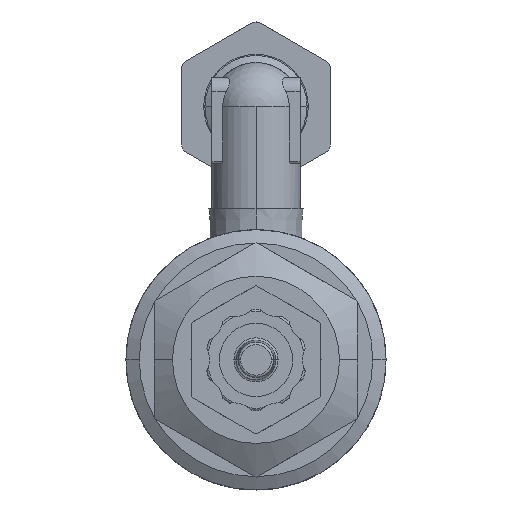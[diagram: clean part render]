
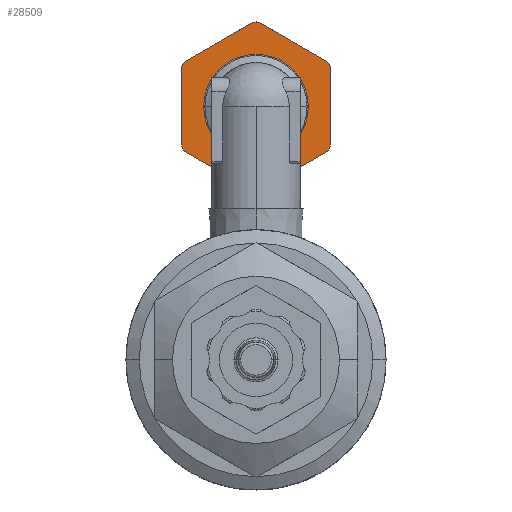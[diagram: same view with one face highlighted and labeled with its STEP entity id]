
A CAD part, front view. The second image highlights one B-rep face of the part: STEP entity #28509.
In plain terms, the highlighted planar face has unit normal (0, -1, 0).
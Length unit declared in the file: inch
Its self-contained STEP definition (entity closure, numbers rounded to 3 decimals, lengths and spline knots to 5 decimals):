
#217 = ORIENTED_EDGE ( 'NONE', *, *, #25436, .F. ) ;
#327 = DIRECTION ( 'NONE',  ( 1., 0., 0. ) ) ;
#838 = LINE ( 'NONE', #46725, #23343 ) ;
#1930 = AXIS2_PLACEMENT_3D ( 'NONE', #9004, #43672, #25314 ) ;
#1933 = VECTOR ( 'NONE', #11878, 39.37008 ) ;
#2358 = CARTESIAN_POINT ( 'NONE',  ( 0.32, -1.621, 0.90503 ) ) ;
#2856 = DIRECTION ( 'NONE',  ( 0., -1., 0. ) ) ;
#3249 = VERTEX_POINT ( 'NONE', #9545 ) ;
#3441 = ORIENTED_EDGE ( 'NONE', *, *, #40270, .T. ) ;
#3826 = CARTESIAN_POINT ( 'NONE',  ( 0.285, -1.621, 1.25432 ) ) ;
#3926 = DIRECTION ( 'NONE',  ( 1., 0., 0. ) ) ;
#4045 = DIRECTION ( 'NONE',  ( 1., 0., 0. ) ) ;
#4049 = DIRECTION ( 'NONE',  ( 0., -1., 0. ) ) ;
#4776 = CIRCLE ( 'NONE', #48059, 0.035 ) ;
#5058 = VECTOR ( 'NONE', #47959, 39.37008 ) ;
#5485 = EDGE_CURVE ( 'NONE', #17303, #41167, #7915, .T. ) ;
#5930 = EDGE_CURVE ( 'NONE', #46315, #12944, #4776, .T. ) ;
#6134 = ORIENTED_EDGE ( 'NONE', *, *, #16915, .T. ) ;
#6240 = VERTEX_POINT ( 'NONE', #46037 ) ;
#6533 = VERTEX_POINT ( 'NONE', #16803 ) ;
#6560 = AXIS2_PLACEMENT_3D ( 'NONE', #19329, #15096, #4045 ) ;
#6765 = VERTEX_POINT ( 'NONE', #17550 ) ;
#6848 = DIRECTION ( 'NONE',  ( 1., 0., 0. ) ) ;
#6976 = VERTEX_POINT ( 'NONE', #29946 ) ;
#7915 = CIRCLE ( 'NONE', #39220, 0.035 ) ;
#8275 = CIRCLE ( 'NONE', #21889, 0.035 ) ;
#9004 = CARTESIAN_POINT ( 'NONE',  ( 0., -1.621, 1.08978 ) ) ;
#9089 = PLANE ( 'NONE',  #41551 ) ;
#9463 = ORIENTED_EDGE ( 'NONE', *, *, #31476, .F. ) ;
#9516 = DIRECTION ( 'NONE',  ( 1., 0., 0. ) ) ;
#9545 = CARTESIAN_POINT ( 'NONE',  ( -0.32, -1.621, 1.25432 ) ) ;
#9772 = CARTESIAN_POINT ( 'NONE',  ( 0.32, -1.621, 1.25432 ) ) ;
#11200 = DIRECTION ( 'NONE',  ( 0., -1., 0. ) ) ;
#11546 = AXIS2_PLACEMENT_3D ( 'NONE', #35473, #39022, #23939 ) ;
#11878 = DIRECTION ( 'NONE',  ( 0.866, 0., 0.5 ) ) ;
#12944 = VERTEX_POINT ( 'NONE', #33288 ) ;
#13018 = LINE ( 'NONE', #43155, #47552 ) ;
#13109 = CIRCLE ( 'NONE', #1930, 0.225 ) ;
#15096 = DIRECTION ( 'NONE',  ( 0., -1., 0. ) ) ;
#15097 = CARTESIAN_POINT ( 'NONE',  ( 0.0175, -1.621, 1.44918 ) ) ;
#15425 = EDGE_CURVE ( 'NONE', #43255, #24062, #8275, .T. ) ;
#15719 = EDGE_CURVE ( 'NONE', #28635, #24062, #17580, .T. ) ;
#16170 = CARTESIAN_POINT ( 'NONE',  ( -0.32, -1.621, 0.90503 ) ) ;
#16316 = EDGE_CURVE ( 'NONE', #18017, #6765, #39417, .T. ) ;
#16411 = FACE_BOUND ( 'NONE', #22772, .T. ) ;
#16642 = DIRECTION ( 'NONE',  ( 1., 0., 0. ) ) ;
#16803 = CARTESIAN_POINT ( 'NONE',  ( -0.3025, -1.621, 1.28463 ) ) ;
#16915 = EDGE_CURVE ( 'NONE', #28635, #6240, #19400, .T. ) ;
#17303 = VERTEX_POINT ( 'NONE', #39244 ) ;
#17550 = CARTESIAN_POINT ( 'NONE',  ( 0.225, -1.621, 1.08978 ) ) ;
#17580 = LINE ( 'NONE', #40158, #5058 ) ;
#17632 = ORIENTED_EDGE ( 'NONE', *, *, #5485, .T. ) ;
#18017 = VERTEX_POINT ( 'NONE', #37427 ) ;
#18142 = CARTESIAN_POINT ( 'NONE',  ( 0.0175, -1.621, 0.73038 ) ) ;
#18434 = EDGE_CURVE ( 'NONE', #6765, #18017, #13109, .T. ) ;
#19294 = ORIENTED_EDGE ( 'NONE', *, *, #5930, .T. ) ;
#19329 = CARTESIAN_POINT ( 'NONE',  ( 0., -1.621, 1.08978 ) ) ;
#19400 = CIRCLE ( 'NONE', #29819, 0.035 ) ;
#19659 = EDGE_CURVE ( 'NONE', #6976, #26995, #33154, .T. ) ;
#19941 = EDGE_CURVE ( 'NONE', #6976, #12944, #838, .T. ) ;
#20349 = CARTESIAN_POINT ( 'NONE',  ( -0.285, -1.621, 1.25432 ) ) ;
#21201 = EDGE_LOOP ( 'NONE', ( #28947, #3441, #9463, #19294, #42245, #26514, #29652, #17632, #217, #34864, #31242, #6134 ) ) ;
#21813 = EDGE_CURVE ( 'NONE', #6533, #6240, #32696, .T. ) ;
#21889 = AXIS2_PLACEMENT_3D ( 'NONE', #3826, #2856, #6848 ) ;
#22378 = CARTESIAN_POINT ( 'NONE',  ( 0.3025, -1.621, 1.28463 ) ) ;
#22772 = EDGE_LOOP ( 'NONE', ( #38568, #39232 ) ) ;
#23343 = VECTOR ( 'NONE', #23373, 39.37008 ) ;
#23373 = DIRECTION ( 'NONE',  ( -0.866, 0., 0.5 ) ) ;
#23939 = DIRECTION ( 'NONE',  ( 1., 0., 0. ) ) ;
#24062 = VERTEX_POINT ( 'NONE', #22378 ) ;
#24452 = CARTESIAN_POINT ( 'NONE',  ( 0.32, -1.621, 0.92523 ) ) ;
#25314 = DIRECTION ( 'NONE',  ( 1., 0., 0. ) ) ;
#25436 = EDGE_CURVE ( 'NONE', #43255, #41167, #13018, .T. ) ;
#25924 = DIRECTION ( 'NONE',  ( -0.866, 0., -0.5 ) ) ;
#26514 = ORIENTED_EDGE ( 'NONE', *, *, #19659, .T. ) ;
#26995 = VERTEX_POINT ( 'NONE', #18142 ) ;
#27249 = DIRECTION ( 'NONE',  ( 1., 0., 0. ) ) ;
#28211 = VECTOR ( 'NONE', #38522, 39.37008 ) ;
#28313 = DIRECTION ( 'NONE',  ( 0., 0., -1. ) ) ;
#28509 = ADVANCED_FACE ( 'NONE', ( #16411, #35715 ), #9089, .T. ) ;
#28635 = VERTEX_POINT ( 'NONE', #15097 ) ;
#28947 = ORIENTED_EDGE ( 'NONE', *, *, #21813, .F. ) ;
#29652 = ORIENTED_EDGE ( 'NONE', *, *, #41319, .F. ) ;
#29819 = AXIS2_PLACEMENT_3D ( 'NONE', #30497, #11200, #3926 ) ;
#29946 = CARTESIAN_POINT ( 'NONE',  ( -0.0175, -1.621, 0.73038 ) ) ;
#30497 = CARTESIAN_POINT ( 'NONE',  ( 0., -1.621, 1.41887 ) ) ;
#30504 = CARTESIAN_POINT ( 'NONE',  ( -0.285, -1.621, 0.92523 ) ) ;
#30674 = CARTESIAN_POINT ( 'NONE',  ( -0.32, -1.621, 1.27453 ) ) ;
#30729 = LINE ( 'NONE', #16170, #28211 ) ;
#31242 = ORIENTED_EDGE ( 'NONE', *, *, #15719, .F. ) ;
#31476 = EDGE_CURVE ( 'NONE', #46315, #3249, #30729, .T. ) ;
#31683 = DIRECTION ( 'NONE',  ( 0., -1., 0. ) ) ;
#32356 = CARTESIAN_POINT ( 'NONE',  ( 0.285, -1.621, 0.92523 ) ) ;
#32696 = LINE ( 'NONE', #30674, #1933 ) ;
#33154 = CIRCLE ( 'NONE', #11546, 0.035 ) ;
#33288 = CARTESIAN_POINT ( 'NONE',  ( -0.3025, -1.621, 0.89492 ) ) ;
#34864 = ORIENTED_EDGE ( 'NONE', *, *, #15425, .T. ) ;
#35473 = CARTESIAN_POINT ( 'NONE',  ( 0., -1.621, 0.76069 ) ) ;
#35715 = FACE_OUTER_BOUND ( 'NONE', #21201, .T. ) ;
#37427 = CARTESIAN_POINT ( 'NONE',  ( -0.225, -1.621, 1.08978 ) ) ;
#38522 = DIRECTION ( 'NONE',  ( 0., 0., 1. ) ) ;
#38568 = ORIENTED_EDGE ( 'NONE', *, *, #18434, .F. ) ;
#39022 = DIRECTION ( 'NONE',  ( 0., -1., 0. ) ) ;
#39220 = AXIS2_PLACEMENT_3D ( 'NONE', #32356, #43928, #9516 ) ;
#39232 = ORIENTED_EDGE ( 'NONE', *, *, #16316, .F. ) ;
#39244 = CARTESIAN_POINT ( 'NONE',  ( 0.3025, -1.621, 0.89492 ) ) ;
#39417 = CIRCLE ( 'NONE', #6560, 0.225 ) ;
#40158 = CARTESIAN_POINT ( 'NONE',  ( 0., -1.621, 1.45928 ) ) ;
#40270 = EDGE_CURVE ( 'NONE', #6533, #3249, #49121, .T. ) ;
#40787 = CARTESIAN_POINT ( 'NONE',  ( -0.32, -1.621, 0.92523 ) ) ;
#41167 = VERTEX_POINT ( 'NONE', #24452 ) ;
#41319 = EDGE_CURVE ( 'NONE', #17303, #26995, #45264, .T. ) ;
#41551 = AXIS2_PLACEMENT_3D ( 'NONE', #42499, #31683, #16642 ) ;
#42245 = ORIENTED_EDGE ( 'NONE', *, *, #19941, .F. ) ;
#42499 = CARTESIAN_POINT ( 'NONE',  ( -0.32, -1.621, 1.27453 ) ) ;
#43155 = CARTESIAN_POINT ( 'NONE',  ( 0.32, -1.621, 1.27453 ) ) ;
#43255 = VERTEX_POINT ( 'NONE', #9772 ) ;
#43488 = AXIS2_PLACEMENT_3D ( 'NONE', #20349, #4049, #327 ) ;
#43672 = DIRECTION ( 'NONE',  ( 0., -1., 0. ) ) ;
#43928 = DIRECTION ( 'NONE',  ( 0., -1., 0. ) ) ;
#45264 = LINE ( 'NONE', #2358, #48329 ) ;
#45842 = DIRECTION ( 'NONE',  ( 0., -1., 0. ) ) ;
#46037 = CARTESIAN_POINT ( 'NONE',  ( -0.0175, -1.621, 1.44918 ) ) ;
#46315 = VERTEX_POINT ( 'NONE', #40787 ) ;
#46725 = CARTESIAN_POINT ( 'NONE',  ( 0., -1.621, 0.72027 ) ) ;
#47552 = VECTOR ( 'NONE', #28313, 39.37008 ) ;
#47959 = DIRECTION ( 'NONE',  ( 0.866, 0., -0.5 ) ) ;
#48059 = AXIS2_PLACEMENT_3D ( 'NONE', #30504, #45842, #27249 ) ;
#48329 = VECTOR ( 'NONE', #25924, 39.37008 ) ;
#49121 = CIRCLE ( 'NONE', #43488, 0.035 ) ;
